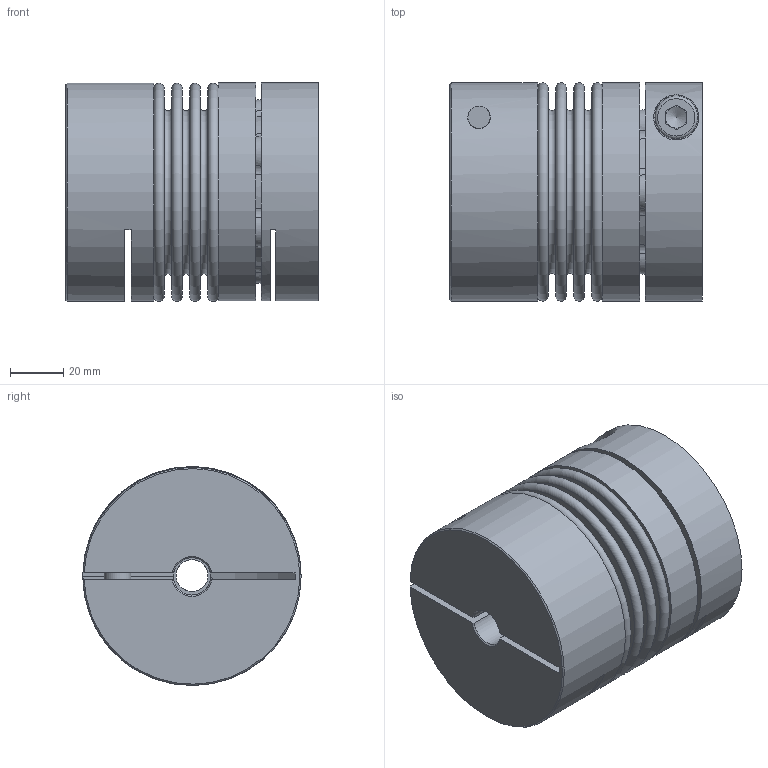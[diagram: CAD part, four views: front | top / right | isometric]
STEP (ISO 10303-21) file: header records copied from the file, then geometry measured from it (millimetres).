
FILE_DESCRIPTION( ( 'Unknown' ), '1' );
FILE_NAME( 'C:/Users/skarpstein/Desktop/KB4P/KB4P/KB4P-80-95.stp', 'Unknown', ( 'Unknown' ), ( 'Unknown' ), 'PSStep 16.0.42', 'Unknown', ' ' );
FILE_SCHEMA( ( 'AUTOMOTIVE_DESIGN { 1 0 10303 214 1 1 1 1 }' ) );
Length unit declared in the file: millimetre
Products named in the file (6): Assem1; BK80-150_Standard_1; KN80-150_Standard_4; Socket Head Cap Screw_DIN_DIN 912 M10 x 30 --- 30N_9; Stecknabe KB4P-80-150; Balgaufnahme KB4P-80-150
Assembly tree (6 placements, depth 2):
  Assem1
    BK80-150_Standard_1
    KN80-150_Standard_4
    Socket Head Cap Screw_DIN_DIN 912 M10 x 30 --- 30N_9  x2
    Stecknabe KB4P-80-150
    Balgaufnahme KB4P-80-150
Bounding box: 94.9 x 82 x 82.3 mm (x, y, z)
Volume: 350724.6 mm3; surface area: 118567.7 mm2
Topology: 6 solids, 6 shells, 170 faces, 401 edges, 263 vertices
Faces by surface type: plane 72, cone 55, cylinder 25, torus 18
Full cylindrical faces by diameter (mm): 8.376 x1, 8.5 x1, 10 x4, 10.5 x1, 12 x1, 14 x1, 16 x2, 17 x2, 70.7 x2, 71.9 x2, 82 x3
Entity records: 5816 total; most frequent: CARTESIAN_POINT 1044, DIRECTION 796, ORIENTED_EDGE 618, AXIS2_PLACEMENT_3D 344, EDGE_CURVE 309, VERTEX_POINT 234, EDGE_LOOP 220, CIRCLE 188
